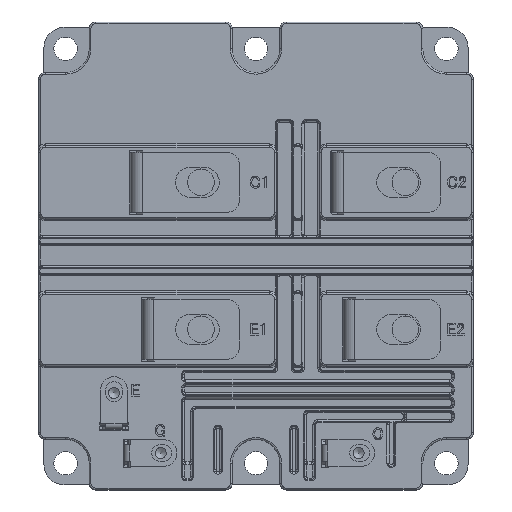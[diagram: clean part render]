
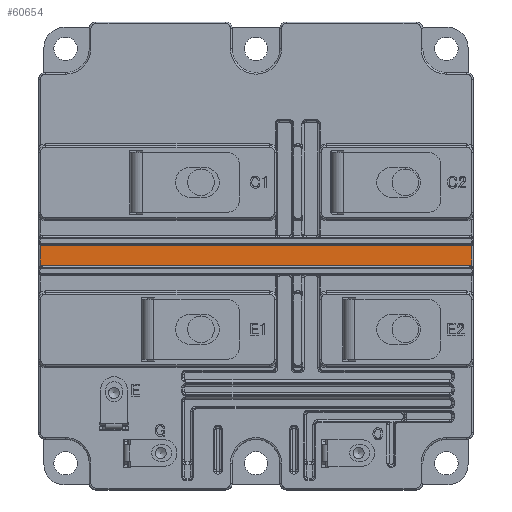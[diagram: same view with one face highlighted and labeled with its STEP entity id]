
A CAD part, top view. The second image highlights one B-rep face of the part: STEP entity #60654.
In plain terms, the highlighted planar face has unit normal (0, 0, 1).
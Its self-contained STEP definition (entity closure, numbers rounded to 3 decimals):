
#1808 = VERTEX_POINT ( 'NONE', #70387 ) ;
#1820 = VERTEX_POINT ( 'NONE', #70389 ) ;
#2254 = EDGE_CURVE ( 'NONE', #1808, #1820, #70499, .T. ) ;
#2576 = EDGE_CURVE ( 'NONE', #2771, #2772, #70730, .T. ) ;
#2579 = EDGE_CURVE ( 'NONE', #2598, #1808, #70676, .T. ) ;
#2598 = VERTEX_POINT ( 'NONE', #70803 ) ;
#2771 = VERTEX_POINT ( 'NONE', #70678 ) ;
#2772 = VERTEX_POINT ( 'NONE', #70787 ) ;
#2828 = VERTEX_POINT ( 'NONE', #70783 ) ;
#2832 = EDGE_CURVE ( 'NONE', #2828, #2598, #70796, .T. ) ;
#2995 = VERTEX_POINT ( 'NONE', #70922 ) ;
#3046 = EDGE_CURVE ( 'NONE', #2995, #2771, #70996, .T. ) ;
#3235 = EDGE_CURVE ( 'NONE', #3330, #2995, #70813, .T. ) ;
#3330 = VERTEX_POINT ( 'NONE', #71124 ) ;
#25957 = FACE_OUTER_BOUND ( 'NONE', #60183, .T. ) ;
#26001 = DIRECTION ( 'NONE',  ( 0., -1., 0. ) ) ;
#26002 = DIRECTION ( 'NONE',  ( 0., 0., 1. ) ) ;
#26003 = CARTESIAN_POINT ( 'NONE',  ( -131.68, -3.5, 39.5 ) ) ;
#26004 = AXIS2_PLACEMENT_3D ( 'NONE', #26003, #26002, #26001 ) ;
#26005 = PLANE ( 'NONE',  #26004 ) ;
#26065 = VECTOR ( 'NONE', #26070, 1000. ) ;
#26070 = DIRECTION ( 'NONE',  ( 0., 1., 0. ) ) ;
#26071 = CARTESIAN_POINT ( 'NONE',  ( 64.5, 3.5, 39.5 ) ) ;
#26075 = LINE ( 'NONE', #26071, #26065 ) ;
#26992 = VECTOR ( 'NONE', #27050, 1000. ) ;
#27050 = DIRECTION ( 'NONE',  ( 0., -1., 0. ) ) ;
#27051 = CARTESIAN_POINT ( 'NONE',  ( -64.5, -3.5, 39.5 ) ) ;
#27056 = LINE ( 'NONE', #27051, #26992 ) ;
#60183 = EDGE_LOOP ( 'NONE', ( #60547, #60844, #60845, #60741, #61003, #61278, #61403, #61433 ) ) ;
#60547 = ORIENTED_EDGE ( 'NONE', *, *, #60695, .T. ) ;
#60654 = ADVANCED_FACE ( 'NONE', ( #25957 ), #26005, .T. ) ;
#60695 = EDGE_CURVE ( 'NONE', #1820, #3330, #26075, .T. ) ;
#60741 = ORIENTED_EDGE ( 'NONE', *, *, #2576, .T. ) ;
#60844 = ORIENTED_EDGE ( 'NONE', *, *, #3235, .T. ) ;
#60845 = ORIENTED_EDGE ( 'NONE', *, *, #3046, .T. ) ;
#61003 = ORIENTED_EDGE ( 'NONE', *, *, #61138, .T. ) ;
#61138 = EDGE_CURVE ( 'NONE', #2772, #2828, #27056, .T. ) ;
#61278 = ORIENTED_EDGE ( 'NONE', *, *, #2832, .T. ) ;
#61403 = ORIENTED_EDGE ( 'NONE', *, *, #2579, .T. ) ;
#61433 = ORIENTED_EDGE ( 'NONE', *, *, #2254, .T. ) ;
#70387 = CARTESIAN_POINT ( 'NONE',  ( 64., -3., 39.5 ) ) ;
#70389 = CARTESIAN_POINT ( 'NONE',  ( 64.5, -3.086, 39.5 ) ) ;
#70499 = CIRCLE ( 'NONE', #70590, 1.5 ) ;
#70571 = DIRECTION ( 'NONE',  ( 0., -1., 0. ) ) ;
#70573 = DIRECTION ( 'NONE',  ( 0., 0., -1. ) ) ;
#70575 = CARTESIAN_POINT ( 'NONE',  ( 64., -4.5, 39.5 ) ) ;
#70590 = AXIS2_PLACEMENT_3D ( 'NONE', #70575, #70573, #70571 ) ;
#70676 = LINE ( 'NONE', #70793, #70791 ) ;
#70678 = CARTESIAN_POINT ( 'NONE',  ( -64., 3., 39.5 ) ) ;
#70679 = AXIS2_PLACEMENT_3D ( 'NONE', #70687, #70801, #70800 ) ;
#70687 = CARTESIAN_POINT ( 'NONE',  ( -64., 4.5, 39.5 ) ) ;
#70730 = CIRCLE ( 'NONE', #70679, 1.5 ) ;
#70770 = CARTESIAN_POINT ( 'NONE',  ( -64., -4.5, 39.5 ) ) ;
#70783 = CARTESIAN_POINT ( 'NONE',  ( -64.5, -3.086, 39.5 ) ) ;
#70787 = CARTESIAN_POINT ( 'NONE',  ( -64.5, 3.086, 39.5 ) ) ;
#70790 = DIRECTION ( 'NONE',  ( 1., 0., 0. ) ) ;
#70791 = VECTOR ( 'NONE', #70790, 1000. ) ;
#70793 = CARTESIAN_POINT ( 'NONE',  ( 64., -3., 39.5 ) ) ;
#70796 = CIRCLE ( 'NONE', #70840, 1.5 ) ;
#70800 = DIRECTION ( 'NONE',  ( 0., -1., 0. ) ) ;
#70801 = DIRECTION ( 'NONE',  ( 0., 0., -1. ) ) ;
#70803 = CARTESIAN_POINT ( 'NONE',  ( -64., -3., 39.5 ) ) ;
#70813 = CIRCLE ( 'NONE', #70972, 1.5 ) ;
#70837 = DIRECTION ( 'NONE',  ( 0., -1., 0. ) ) ;
#70838 = DIRECTION ( 'NONE',  ( 0., 0., -1. ) ) ;
#70840 = AXIS2_PLACEMENT_3D ( 'NONE', #70770, #70838, #70837 ) ;
#70909 = CARTESIAN_POINT ( 'NONE',  ( 64., 4.5, 39.5 ) ) ;
#70922 = CARTESIAN_POINT ( 'NONE',  ( 64., 3., 39.5 ) ) ;
#70956 = DIRECTION ( 'NONE',  ( 0., -1., 0. ) ) ;
#70957 = DIRECTION ( 'NONE',  ( 0., 0., -1. ) ) ;
#70972 = AXIS2_PLACEMENT_3D ( 'NONE', #70909, #70957, #70956 ) ;
#70978 = DIRECTION ( 'NONE',  ( -1., 0., 0. ) ) ;
#70979 = VECTOR ( 'NONE', #70978, 1000. ) ;
#70995 = CARTESIAN_POINT ( 'NONE',  ( -64., 3., 39.5 ) ) ;
#70996 = LINE ( 'NONE', #70995, #70979 ) ;
#71124 = CARTESIAN_POINT ( 'NONE',  ( 64.5, 3.086, 39.5 ) ) ;
